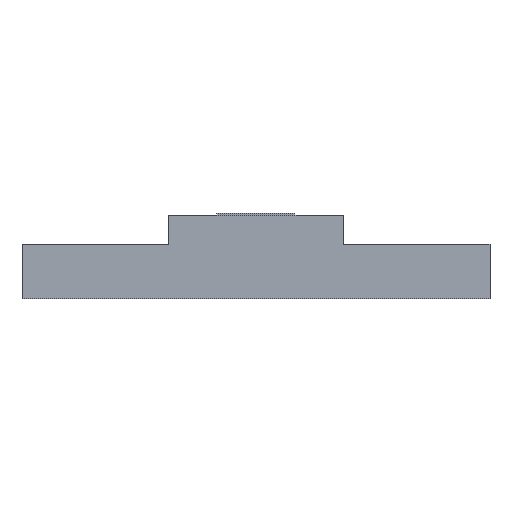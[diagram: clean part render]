
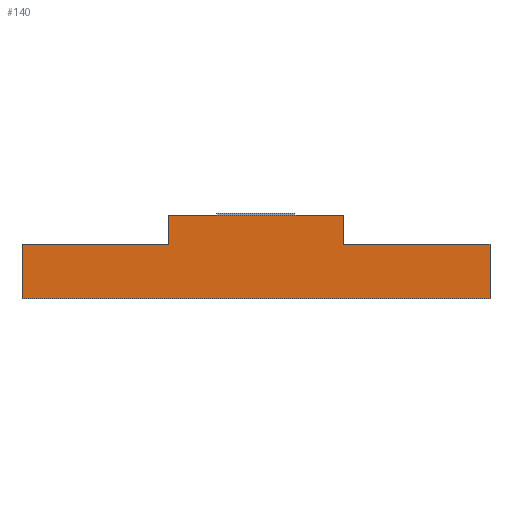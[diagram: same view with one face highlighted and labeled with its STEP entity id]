
A CAD part, front view. The second image highlights one B-rep face of the part: STEP entity #140.
In plain terms, the highlighted planar face has unit normal (0, -1, 0).
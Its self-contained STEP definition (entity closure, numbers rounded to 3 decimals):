
#140=ADVANCED_FACE('',(#339),#341,.T.);
#339=FACE_BOUND('',#340,.T.);
#340=EDGE_LOOP('',(#679,#680,#681,#682,#683,#684,#685,#686,#687,#688));
#341=PLANE('',#342);
#342=AXIS2_PLACEMENT_3D('',#343,#344,#345);
#343=CARTESIAN_POINT('',(-12.,-4.5,0.));
#344=DIRECTION('',(0.,-1.,0.));
#345=DIRECTION('',(1.,0.,0.));
#679=ORIENTED_EDGE('',*,*,#901,.F.);
#680=ORIENTED_EDGE('',*,*,#916,.F.);
#681=ORIENTED_EDGE('',*,*,#917,.F.);
#682=ORIENTED_EDGE('',*,*,#918,.F.);
#683=ORIENTED_EDGE('',*,*,#919,.T.);
#684=ORIENTED_EDGE('',*,*,#920,.T.);
#685=ORIENTED_EDGE('',*,*,#921,.F.);
#686=ORIENTED_EDGE('',*,*,#922,.T.);
#687=ORIENTED_EDGE('',*,*,#905,.F.);
#688=ORIENTED_EDGE('',*,*,#923,.F.);
#901=EDGE_CURVE('',#1073,#1075,#1076,.T.);
#905=EDGE_CURVE('',#1081,#1083,#1084,.T.);
#916=EDGE_CURVE('',#1101,#1073,#1103,.T.);
#917=EDGE_CURVE('',#1104,#1101,#1105,.T.);
#918=EDGE_CURVE('',#1106,#1104,#1107,.T.);
#919=EDGE_CURVE('',#1106,#1108,#1109,.T.);
#920=EDGE_CURVE('',#1108,#1110,#1111,.T.);
#921=EDGE_CURVE('',#1112,#1110,#1113,.T.);
#922=EDGE_CURVE('',#1112,#1083,#1114,.T.);
#923=EDGE_CURVE('',#1075,#1081,#1115,.F.);
#1073=VERTEX_POINT('',#1256);
#1075=VERTEX_POINT('',#1260);
#1076=LINE('',#1261,#1262);
#1081=VERTEX_POINT('',#1272);
#1083=VERTEX_POINT('',#1276);
#1084=LINE('',#1277,#1278);
#1101=VERTEX_POINT('',#1314);
#1103=LINE('',#1318,#1319);
#1104=VERTEX_POINT('',#1321);
#1105=LINE('',#1322,#1323);
#1106=VERTEX_POINT('',#1325);
#1107=LINE('',#1326,#1327);
#1108=VERTEX_POINT('',#1329);
#1109=LINE('',#1330,#1331);
#1110=VERTEX_POINT('',#1333);
#1111=LINE('',#1334,#1335);
#1112=VERTEX_POINT('',#1337);
#1113=LINE('',#1338,#1339);
#1114=LINE('',#1341,#1342);
#1115=LINE('',#1344,#1345);
#1256=CARTESIAN_POINT('',(-4.5,-4.5,4.3));
#1260=CARTESIAN_POINT('',(-2.,-4.5,4.3));
#1261=CARTESIAN_POINT('',(-4.5,-4.5,4.3));
#1262=VECTOR('',#1263,1.);
#1263=DIRECTION('',(1.,0.,0.));
#1272=CARTESIAN_POINT('',(2.,-4.5,4.3));
#1276=CARTESIAN_POINT('',(4.5,-4.5,4.3));
#1277=CARTESIAN_POINT('',(2.,-4.5,4.3));
#1278=VECTOR('',#1279,1.);
#1279=DIRECTION('',(1.,0.,0.));
#1314=CARTESIAN_POINT('',(-4.5,-4.5,2.8));
#1318=CARTESIAN_POINT('',(-4.5,-4.5,2.8));
#1319=VECTOR('',#1320,1.);
#1320=DIRECTION('',(0.,0.,1.));
#1321=CARTESIAN_POINT('',(-12.,-4.5,2.8));
#1322=CARTESIAN_POINT('',(-12.,-4.5,2.8));
#1323=VECTOR('',#1324,1.);
#1324=DIRECTION('',(1.,0.,0.));
#1325=CARTESIAN_POINT('',(-12.,-4.5,0.));
#1326=CARTESIAN_POINT('',(-12.,-4.5,0.));
#1327=VECTOR('',#1328,1.);
#1328=DIRECTION('',(0.,0.,1.));
#1329=CARTESIAN_POINT('',(12.,-4.5,0.));
#1330=CARTESIAN_POINT('',(-12.,-4.5,0.));
#1331=VECTOR('',#1332,1.);
#1332=DIRECTION('',(1.,0.,0.));
#1333=CARTESIAN_POINT('',(12.,-4.5,2.8));
#1334=CARTESIAN_POINT('',(12.,-4.5,0.));
#1335=VECTOR('',#1336,1.);
#1336=DIRECTION('',(0.,0.,1.));
#1337=CARTESIAN_POINT('',(4.5,-4.5,2.8));
#1338=CARTESIAN_POINT('',(4.5,-4.5,2.8));
#1339=VECTOR('',#1340,1.);
#1340=DIRECTION('',(1.,0.,0.));
#1341=CARTESIAN_POINT('',(4.5,-4.5,2.8));
#1342=VECTOR('',#1343,1.);
#1343=DIRECTION('',(0.,0.,1.));
#1344=CARTESIAN_POINT('',(2.,-4.5,4.3));
#1345=VECTOR('',#1346,1.);
#1346=DIRECTION('',(-1.,0.,0.));
